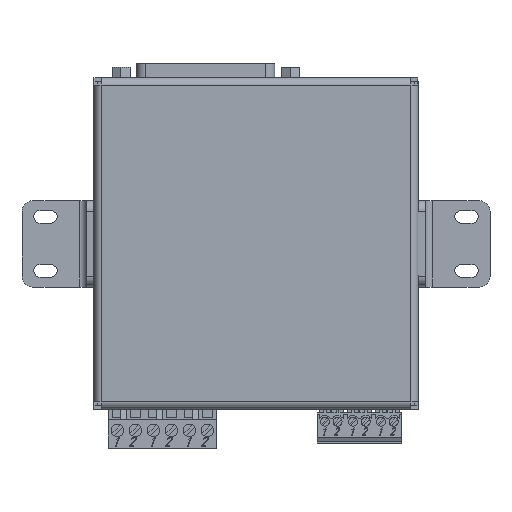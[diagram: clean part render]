
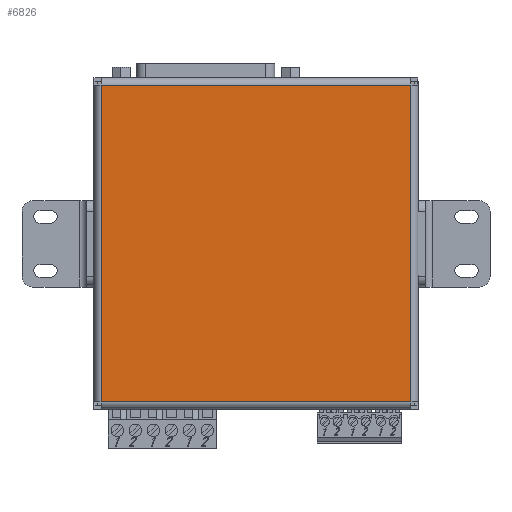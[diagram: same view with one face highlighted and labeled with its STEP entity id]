
A CAD part, top view. The second image highlights one B-rep face of the part: STEP entity #6826.
In plain terms, the highlighted planar face has unit normal (0, 0, 1).
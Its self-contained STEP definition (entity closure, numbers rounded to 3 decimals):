
#6826=ADVANCED_FACE('',(#25793),#25795,.T.);
#25793=FACE_BOUND('',#25794,.T.);
#25794=EDGE_LOOP('',(#41653,#41654,#41655,#41656));
#25795=PLANE('',#25796);
#25796=AXIS2_PLACEMENT_3D('',#25797,#25798,#25799);
#25797=CARTESIAN_POINT('',(39.5,10.,23.));
#25798=DIRECTION('',(0.,0.,1.));
#25799=DIRECTION('',(1.,0.,0.));
#41653=ORIENTED_EDGE('',*,*,#50703,.T.);
#41654=ORIENTED_EDGE('',*,*,#50704,.T.);
#41655=ORIENTED_EDGE('',*,*,#50694,.T.);
#41656=ORIENTED_EDGE('',*,*,#50705,.T.);
#50694=EDGE_CURVE('',#57562,#57559,#57563,.T.);
#50703=EDGE_CURVE('',#57576,#57577,#57578,.T.);
#50704=EDGE_CURVE('',#57577,#57562,#57579,.T.);
#50705=EDGE_CURVE('',#57559,#57576,#57580,.T.);
#57559=VERTEX_POINT('',#72177);
#57562=VERTEX_POINT('',#72185);
#57563=LINE('',#72186,#72187);
#57576=VERTEX_POINT('',#72220);
#57577=VERTEX_POINT('',#72221);
#57578=LINE('',#72222,#72223);
#57579=LINE('',#72225,#72226);
#57580=LINE('',#72228,#72229);
#72177=CARTESIAN_POINT('',(24.,-25.,23.));
#72185=CARTESIAN_POINT('',(-62.,-25.,23.));
#72186=CARTESIAN_POINT('',(-62.,-25.,23.));
#72187=VECTOR('',#72188,1.);
#72188=DIRECTION('',(1.,0.,0.));
#72220=CARTESIAN_POINT('',(24.,63.,23.));
#72221=CARTESIAN_POINT('',(-62.,63.,23.));
#72222=CARTESIAN_POINT('',(24.,63.,23.));
#72223=VECTOR('',#72224,1.);
#72224=DIRECTION('',(-1.,0.,0.));
#72225=CARTESIAN_POINT('',(-62.,63.,23.));
#72226=VECTOR('',#72227,1.);
#72227=DIRECTION('',(0.,-1.,0.));
#72228=CARTESIAN_POINT('',(24.,-25.,23.));
#72229=VECTOR('',#72230,1.);
#72230=DIRECTION('',(0.,1.,0.));
